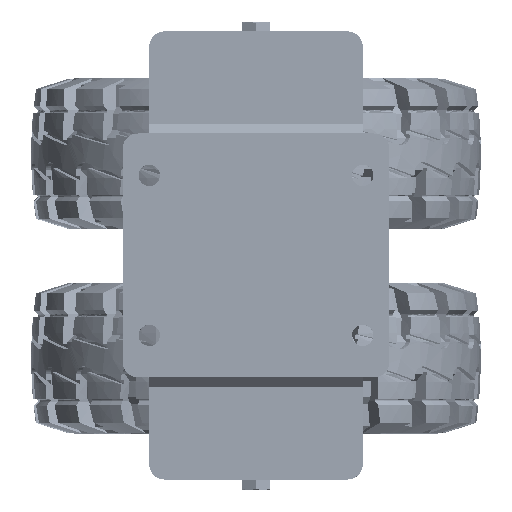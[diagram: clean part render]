
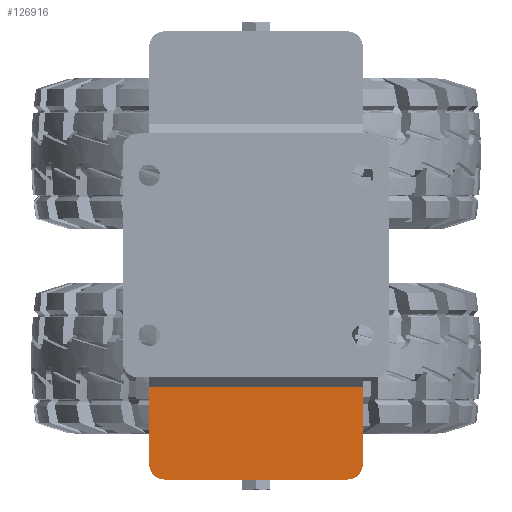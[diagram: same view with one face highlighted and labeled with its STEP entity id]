
A CAD part, top view. The second image highlights one B-rep face of the part: STEP entity #126916.
In plain terms, the highlighted planar face has unit normal (0, 0, 1).
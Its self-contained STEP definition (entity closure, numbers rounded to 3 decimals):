
#14444=PLANE('',#134279);
#19428=FACE_OUTER_BOUND('',#26689,.T.);
#26689=EDGE_LOOP('',(#93909,#93910,#93911,#93912,#93913,#93914));
#32963=LINE('',#220300,#38700);
#32964=LINE('',#220302,#38701);
#32965=LINE('',#220306,#38702);
#32966=LINE('',#220309,#38703);
#38700=VECTOR('',#146930,10.);
#38701=VECTOR('',#146931,10.);
#38702=VECTOR('',#146934,10.);
#38703=VECTOR('',#146937,10.);
#44119=CIRCLE('',#134280,10.);
#44120=CIRCLE('',#134281,10.);
#51275=VERTEX_POINT('',#220298);
#51276=VERTEX_POINT('',#220299);
#51277=VERTEX_POINT('',#220301);
#51278=VERTEX_POINT('',#220303);
#51279=VERTEX_POINT('',#220305);
#51280=VERTEX_POINT('',#220307);
#66542=EDGE_CURVE('',#51275,#51276,#32963,.T.);
#66543=EDGE_CURVE('',#51276,#51277,#32964,.T.);
#66544=EDGE_CURVE('',#51277,#51278,#44119,.T.);
#66545=EDGE_CURVE('',#51278,#51279,#32965,.T.);
#66546=EDGE_CURVE('',#51279,#51280,#44120,.T.);
#66547=EDGE_CURVE('',#51280,#51275,#32966,.T.);
#93909=ORIENTED_EDGE('',*,*,#66542,.T.);
#93910=ORIENTED_EDGE('',*,*,#66543,.T.);
#93911=ORIENTED_EDGE('',*,*,#66544,.T.);
#93912=ORIENTED_EDGE('',*,*,#66545,.T.);
#93913=ORIENTED_EDGE('',*,*,#66546,.T.);
#93914=ORIENTED_EDGE('',*,*,#66547,.T.);
#126916=ADVANCED_FACE('',(#19428),#14444,.T.);
#134279=AXIS2_PLACEMENT_3D('',#220297,#146928,#146929);
#134280=AXIS2_PLACEMENT_3D('',#220304,#146932,#146933);
#134281=AXIS2_PLACEMENT_3D('',#220308,#146935,#146936);
#146928=DIRECTION('center_axis',(0.,0.,1.));
#146929=DIRECTION('ref_axis',(1.,0.,0.));
#146930=DIRECTION('',(-1.,0.,0.));
#146931=DIRECTION('',(0.,-1.,0.));
#146932=DIRECTION('center_axis',(0.,0.,1.));
#146933=DIRECTION('ref_axis',(-1.,0.,0.));
#146934=DIRECTION('',(1.,0.,0.));
#146935=DIRECTION('center_axis',(0.,0.,1.));
#146936=DIRECTION('ref_axis',(0.,-1.,0.));
#146937=DIRECTION('',(0.,1.,0.));
#220297=CARTESIAN_POINT('Origin',(0.,0.,
0.));
#220298=CARTESIAN_POINT('',(70.,-86.,0.));
#220299=CARTESIAN_POINT('',(-70.,-86.,0.));
#220300=CARTESIAN_POINT('',(-35.,-86.,0.));
#220301=CARTESIAN_POINT('',(-70.,-137.,0.));
#220302=CARTESIAN_POINT('',(-70.,-80.784,0.));
#220303=CARTESIAN_POINT('',(-60.,-147.,0.));
#220304=CARTESIAN_POINT('Origin',(-60.,-137.,0.));
#220305=CARTESIAN_POINT('',(60.,-147.,0.));
#220306=CARTESIAN_POINT('',(-60.,-147.,0.));
#220307=CARTESIAN_POINT('',(70.,-137.,0.));
#220308=CARTESIAN_POINT('Origin',(60.,-137.,0.));
#220309=CARTESIAN_POINT('',(70.,-137.,0.));
